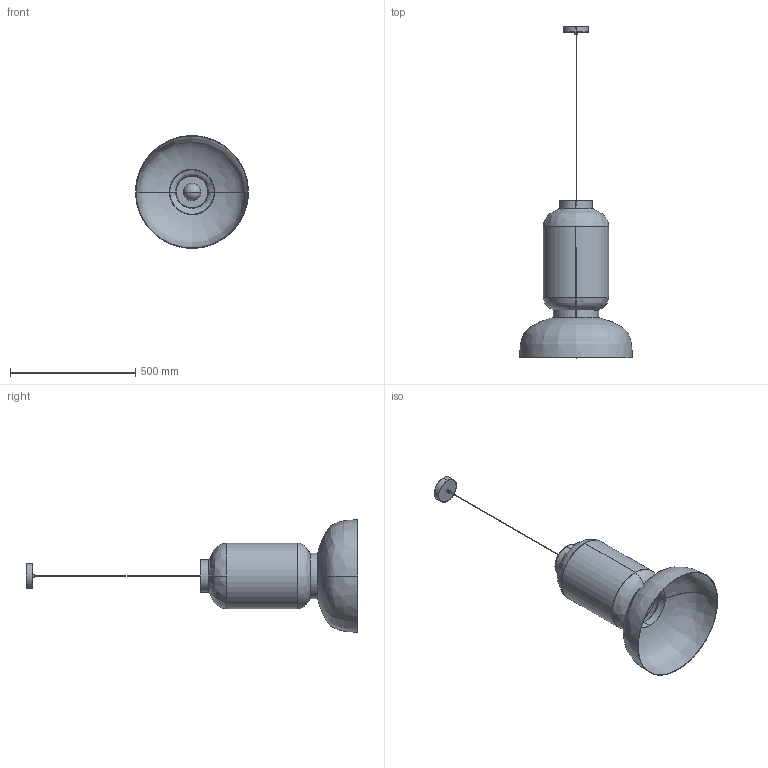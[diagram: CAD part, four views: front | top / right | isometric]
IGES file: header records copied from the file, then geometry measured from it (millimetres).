
Start section: SolidWorks IGES file using analytic representation for surfaces
Global section: file name: F:\燠隴矨\跤藝馱腔3D\Rice Paper Lantern Pendant lamp45X65.IGS; native system: SolidWorks 2022; preprocessor: SolidWorks 2022; author: MyPC; date: 230512.172347; units: millimetre
Bounding box: 450 x 1325 x 450 mm (x, y, z)
Surface area: 1395265.2 mm2 (no closed solid volume)
Topology: 0 solids, 0 shells, 54 faces, 1148 edges, 1147 vertices
Faces by surface type: bspline 28, revolution 26
